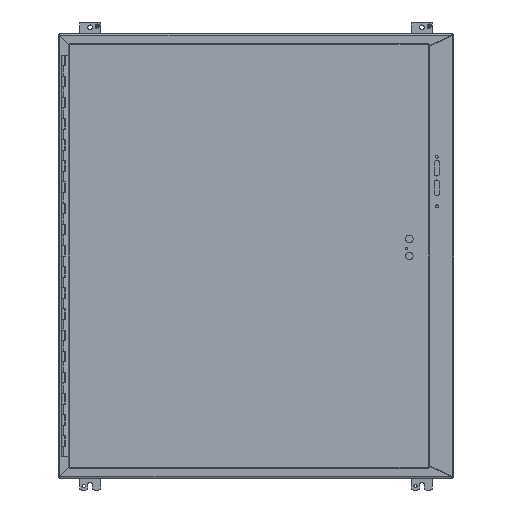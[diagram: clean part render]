
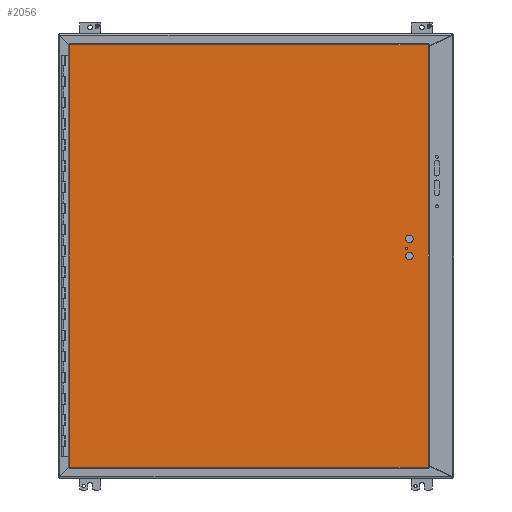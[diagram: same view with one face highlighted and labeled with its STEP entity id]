
A CAD part, front view. The second image highlights one B-rep face of the part: STEP entity #2056.
In plain terms, the highlighted planar face has unit normal (0, -1, 0).
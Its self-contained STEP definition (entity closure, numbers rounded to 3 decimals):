
#2056 = ADVANCED_FACE( '', ( #3358, #3359, #3360, #3361 ), #3362, .T. );
#3358 = FACE_BOUND( '', #6754, .T. );
#3359 = FACE_OUTER_BOUND( '', #6755, .T. );
#3360 = FACE_BOUND( '', #6756, .T. );
#3361 = FACE_BOUND( '', #6757, .T. );
#3362 = PLANE( '', #6758 );
#6754 = EDGE_LOOP( '', ( #9728 ) );
#6755 = EDGE_LOOP( '', ( #9729, #9730, #9731, #9732 ) );
#6756 = EDGE_LOOP( '', ( #9733 ) );
#6757 = EDGE_LOOP( '', ( #9734 ) );
#6758 = AXIS2_PLACEMENT_3D( '', #9735, #9736, #9737 );
#9728 = ORIENTED_EDGE( '', *, *, #15593, .T. );
#9729 = ORIENTED_EDGE( '', *, *, #15594, .F. );
#9730 = ORIENTED_EDGE( '', *, *, #15595, .T. );
#9731 = ORIENTED_EDGE( '', *, *, #15596, .F. );
#9732 = ORIENTED_EDGE( '', *, *, #15597, .F. );
#9733 = ORIENTED_EDGE( '', *, *, #15598, .T. );
#9734 = ORIENTED_EDGE( '', *, *, #15599, .T. );
#9735 = CARTESIAN_POINT( '', ( -433.388, 0., -510.388 ) );
#9736 = DIRECTION( '', ( 0., -1., 0. ) );
#9737 = DIRECTION( '', ( 0., 0., -1. ) );
#15593 = EDGE_CURVE( '', #19052, #19052, #19053, .T. );
#15594 = EDGE_CURVE( '', #19054, #19055, #19056, .T. );
#15595 = EDGE_CURVE( '', #19054, #19031, #19057, .T. );
#15596 = EDGE_CURVE( '', #19043, #19031, #19058, .T. );
#15597 = EDGE_CURVE( '', #19055, #19043, #19059, .T. );
#15598 = EDGE_CURVE( '', #19060, #19060, #19061, .T. );
#15599 = EDGE_CURVE( '', #19062, #19062, #19063, .T. );
#19031 = VERTEX_POINT( '', #22370 );
#19043 = VERTEX_POINT( '', #22412 );
#19052 = VERTEX_POINT( '', #22435 );
#19053 = CIRCLE( '', #22436, 2.769 );
#19054 = VERTEX_POINT( '', #22437 );
#19055 = VERTEX_POINT( '', #22438 );
#19056 = LINE( '', #22439, #22440 );
#19057 = LINE( '', #22441, #22442 );
#19058 = LINE( '', #22443, #22444 );
#19059 = LINE( '', #22445, #22446 );
#19060 = VERTEX_POINT( '', #22447 );
#19061 = CIRCLE( '', #22448, 8.928 );
#19062 = VERTEX_POINT( '', #22449 );
#19063 = CIRCLE( '', #22450, 8.928 );
#22370 = CARTESIAN_POINT( '', ( 430.644, 0., -507.644 ) );
#22412 = CARTESIAN_POINT( '', ( 430.644, 0., 507.644 ) );
#22435 = CARTESIAN_POINT( '', ( 382.181, 0., 17.456 ) );
#22436 = AXIS2_PLACEMENT_3D( '', #26094, #26095, #26096 );
#22437 = CARTESIAN_POINT( '', ( -430.644, 0., -507.644 ) );
#22438 = CARTESIAN_POINT( '', ( -430.644, 0., 507.644 ) );
#22439 = CARTESIAN_POINT( '', ( -430.644, 0., 507.644 ) );
#22440 = VECTOR( '', #26097, 1000. );
#22441 = CARTESIAN_POINT( '', ( 430.644, 0., -507.644 ) );
#22442 = VECTOR( '', #26098, 1000. );
#22443 = CARTESIAN_POINT( '', ( 430.644, 0., 507.644 ) );
#22444 = VECTOR( '', #26099, 1000. );
#22445 = CARTESIAN_POINT( '', ( -433.388, 0., 507.644 ) );
#22446 = VECTOR( '', #26100, 1000. );
#22447 = CARTESIAN_POINT( '', ( 394.691, 0., -0.006 ) );
#22448 = AXIS2_PLACEMENT_3D( '', #26101, #26102, #26103 );
#22449 = CARTESIAN_POINT( '', ( 394.691, 0., 41.269 ) );
#22450 = AXIS2_PLACEMENT_3D( '', #26104, #26105, #26106 );
#26094 = CARTESIAN_POINT( '', ( 379.413, 0., 17.456 ) );
#26095 = DIRECTION( '', ( 0., 1., 0. ) );
#26096 = DIRECTION( '', ( 1., 0., 0. ) );
#26097 = DIRECTION( '', ( 0., 0., 1. ) );
#26098 = DIRECTION( '', ( 1., 0., 0. ) );
#26099 = DIRECTION( '', ( 0., 0., -1. ) );
#26100 = DIRECTION( '', ( 1., 0., 0. ) );
#26101 = CARTESIAN_POINT( '', ( 385.763, 0., -0.006 ) );
#26102 = DIRECTION( '', ( 0., 1., 0. ) );
#26103 = DIRECTION( '', ( 1., 0., 0. ) );
#26104 = CARTESIAN_POINT( '', ( 385.763, 0., 41.269 ) );
#26105 = DIRECTION( '', ( 0., 1., 0. ) );
#26106 = DIRECTION( '', ( 1., 0., 0. ) );
